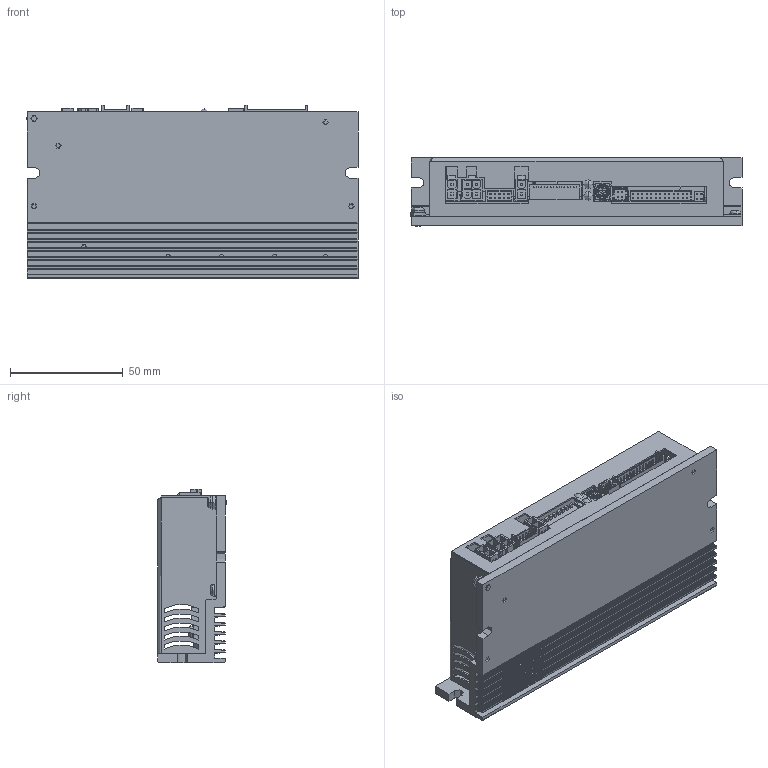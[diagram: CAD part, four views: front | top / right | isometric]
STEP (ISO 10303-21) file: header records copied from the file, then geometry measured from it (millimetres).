
FILE_DESCRIPTION((''),'2;1');
FILE_NAME('SW4_ASM','2017-09-14T',('Matteo Maccalli'),(''),'PRO/ENGINEER BY PARAMETRIC TECHNOLOGY CORPORATION, 2006320','PRO/ENGINEER BY PARAMETRIC TECHNOLOGY CORPORATION, 2006320','');
FILE_SCHEMA(('AUTOMOTIVE_DESIGN_CC2 { 1 2 10303 214 -1 1 5 2 }'));
Length unit declared in the file: millimetre
Products named in the file (74): ESTRUSO_02_IMD01; AD_00882-01_IMD01_01; BOARD; CE_18X40_P7E62_ORRIZZONTALE; CE200_ASM; 5151061F; GL400_ASM; SW_DIP8_90_THD; DIP400_ASM; USER_LIBRARY-TO252AA; QN300_ASM; E13; T200_ASM; RTE1600V44_BODY; RTE1600V44_SKOBA; RTE1600V44_SCREW; RTE1600V44_NUMBERS16; RTE1600V44_PINVERT; RTE1600V44_ASM_ASM; SW400_ASM; 1206_SMD_RESISTOR; R201_ASM; QN307_ASM; QN306_ASM; QN305_ASM; QN304_ASM; QN303_ASM; QN302_ASM; QN301_ASM; 877600416; JMP500_ASM; PONTE_GSIB254_TERMINALI_5_1; DP200_ASM; SOLID-110014; COMPOUND-121173; 878330431_ASM; CN6_ASM; C-5555153-1-C-3D; CN5B_ASM; CN5A_ASM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
Assembly tree (87 placements, depth 6):
  SW4_ASM
    ESTRUSO_02_IMD01
    AD_00882-01_IMD01_01
    IMD01-02_ASM
      PCB_ASM
        BOARD
        CE200_ASM
          CE_18X40_P7E62_ORRIZZONTALE
        GL400_ASM
          5151061F
        DIP400_ASM
          SW_DIP8_90_THD
        QN300_ASM
          USER_LIBRARY-TO252AA
        T200_ASM
          E13
        SW400_ASM
          RTE1600V44_ASM_ASM
            RTE1600V44_BODY
            RTE1600V44_SKOBA
            RTE1600V44_SCREW
            RTE1600V44_NUMBERS16
            RTE1600V44_PINVERT  x5
        R201_ASM
          1206_SMD_RESISTOR
        QN307_ASM
          USER_LIBRARY-TO252AA
        QN306_ASM
          USER_LIBRARY-TO252AA
        QN305_ASM
          USER_LIBRARY-TO252AA
        QN304_ASM
          USER_LIBRARY-TO252AA
        QN303_ASM
          USER_LIBRARY-TO252AA
        QN302_ASM
          USER_LIBRARY-TO252AA
        QN301_ASM
          USER_LIBRARY-TO252AA
        JMP500_ASM
          877600416
        DP200_ASM
          PONTE_GSIB254_TERMINALI_5_1
        CN6_ASM
          878330431_ASM
            SOLID-110014
            COMPOUND-121173
        CN5B_ASM
          C-5555153-1-C-3D
        CN5A_ASM
          C-5555153-1-C-3D
        CN4_ASM
          DF11-10DP-2DS_ASM
            DF11-10DP-2DS_X_8A_S_H_X_97_S__
        CN2_ASM
          MOLEX_039300040_ASM
            SOLID-166667
            COMPOUND-175233
        CN1_ASM
          MOLEX_039300020_ASM
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Bounding box: 147.3 x 30.5 x 76.8 mm (x, y, z)
Topology: 34 solids, 294 shells, 5014 faces, 14460 edges, 9585 vertices
Faces by surface type: plane 3865, cylinder 721, extrusion 234, sphere 104, torus 58, cone 28, bspline 4
Full cylindrical faces by diameter (mm): 0.254 x4, 0.3 x34, 0.4 x12, 0.5 x8, 0.508 x8, 0.6 x28, 0.752 x4, 0.8 x39, 1 x16, 1.6 x4, 2.5 x8, 3 x2, 3.2 x4, 3.226 x8, 3.5 x6, 3.556 x4, 4.054 x4
Entity records: 176403 total; most frequent: CARTESIAN_POINT 35323, ORIENTED_EDGE 22353, DIRECTION 20673, EDGE_CURVE 11969, PRESENTATION_STYLE_ASSIGNMENT 9229, VECTOR 9163, LINE 8929, STYLED_ITEM 8575
